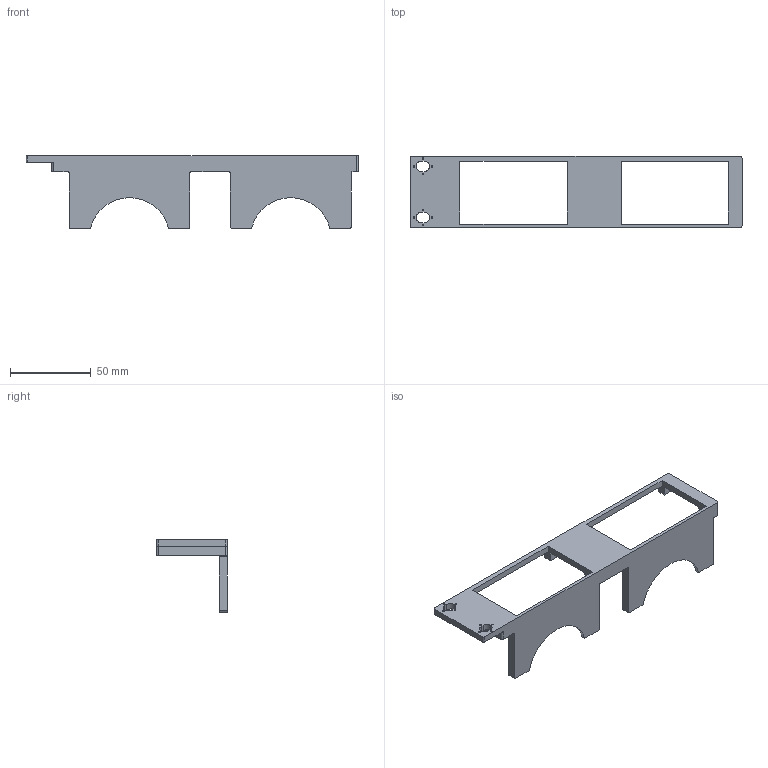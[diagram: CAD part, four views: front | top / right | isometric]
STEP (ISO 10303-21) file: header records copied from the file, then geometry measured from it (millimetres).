
FILE_DESCRIPTION (( 'STEP AP214' ), '1' );
FILE_NAME ('rack-basis-hifiberry.STEP', '2019-09-17T19:16:32', ( '' ), ( '' ), 'SwSTEP 2.0', 'SolidWorks 2016', '' );
FILE_SCHEMA (( 'AUTOMOTIVE_DESIGN' ));
Length unit declared in the file: millimetre
Products named in the file (1): rack-basis-hifiberry
Bounding box: 206 x 44 x 45 mm (x, y, z)
Volume: 31243.3 mm3; surface area: 23982.1 mm2
Topology: 1 solids, 1 shells, 94 faces, 282 edges, 188 vertices
Faces by surface type: plane 55, cylinder 39
Entity records: 3266 total; most frequent: CARTESIAN_POINT 565, ORIENTED_EDGE 564, DIRECTION 550, EDGE_CURVE 282, VECTOR 204, LINE 204, VERTEX_POINT 188, AXIS2_PLACEMENT_3D 173
